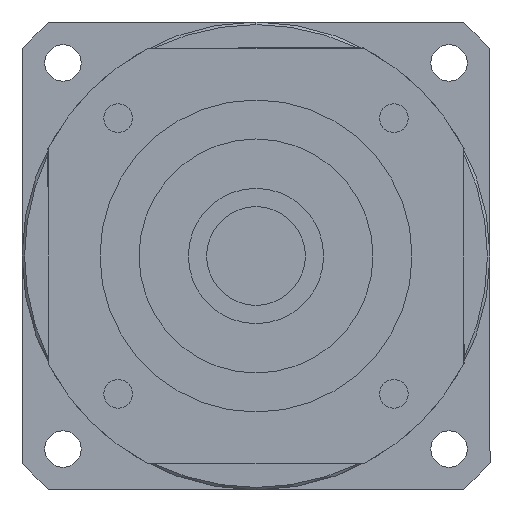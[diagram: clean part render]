
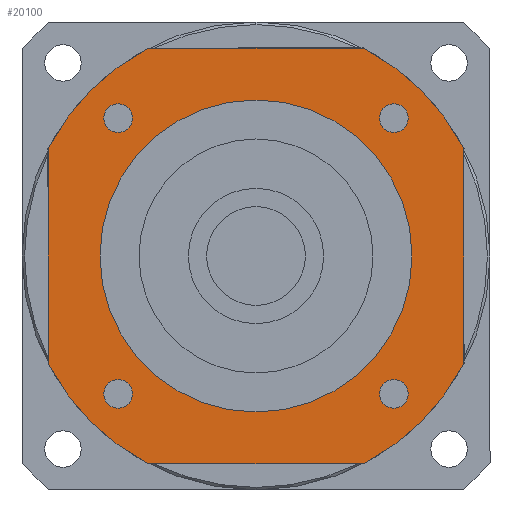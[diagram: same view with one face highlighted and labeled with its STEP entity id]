
A CAD part, left-side view. The second image highlights one B-rep face of the part: STEP entity #20100.
In plain terms, the highlighted planar face has unit normal (-1, 0, 0) as drawn and (0, 0, -1) by its records, which use the part's own axes.
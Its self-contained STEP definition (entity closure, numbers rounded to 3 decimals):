
#15810=CARTESIAN_POINT('',(-20.616,40.,-117.));
#15820=VERTEX_POINT('',#15810);
#15980=CARTESIAN_POINT('',(-40.,20.616,-117.));
#15990=VERTEX_POINT('',#15980);
#16020=CARTESIAN_POINT('',(0.,0.,
-117.));
#16030=DIRECTION('',(0.,0.,1.));
#16040=DIRECTION('',(0.,-1.,0.));
#16050=AXIS2_PLACEMENT_3D('',#16020,#16030,#16040);
#16060=CIRCLE('',#16050,45.);
#16070=EDGE_CURVE('',#15820,#15990,#16060,.T.);
#18340=CARTESIAN_POINT('',(20.616,40.,-117.));
#18350=VERTEX_POINT('',#18340);
#18480=CARTESIAN_POINT('',(40.,40.,-117.));
#18490=DIRECTION('',(-1.,0.,0.));
#18500=VECTOR('',#18490,1000.);
#18510=LINE('',#18480,#18500);
#18520=EDGE_CURVE('',#18350,#15820,#18510,.T.);
#18570=CARTESIAN_POINT('',(-40.,40.,-117.));
#18580=DIRECTION('',(0.,0.,1.));
#18590=DIRECTION('',(-1.,0.,0.));
#18600=AXIS2_PLACEMENT_3D('',#18570,#18580,#18590);
#18610=PLANE('',#18600);
#18620=CARTESIAN_POINT('',(26.517,-26.517,-117.));
#18630=DIRECTION('',(0.,0.,-1.));
#18640=DIRECTION('',(1.,0.,0.));
#18650=AXIS2_PLACEMENT_3D('',#18620,#18630,#18640);
#18660=CIRCLE('',#18650,2.75);
#18670=CARTESIAN_POINT('',(29.267,-26.517,-117.));
#18680=VERTEX_POINT('',#18670);
#18690=CARTESIAN_POINT('',(26.517,-29.267,-117.));
#18700=VERTEX_POINT('',#18690);
#18710=EDGE_CURVE('',#18680,#18700,#18660,.T.);
#18720=ORIENTED_EDGE('',*,*,#18710,.F.);
#18730=CARTESIAN_POINT('',(26.517,-23.767,-117.));
#18740=VERTEX_POINT('',#18730);
#18750=EDGE_CURVE('',#18700,#18740,#18660,.T.);
#18760=ORIENTED_EDGE('',*,*,#18750,.F.);
#18770=EDGE_CURVE('',#18740,#18680,#18660,.T.);
#18780=ORIENTED_EDGE('',*,*,#18770,.F.);
#18790=EDGE_LOOP('',(#18780,#18760,#18720));
#18800=FACE_BOUND('',#18790,.T.);
#18810=CARTESIAN_POINT('',(26.517,26.517,-117.));
#18820=DIRECTION('',(0.,0.,-1.));
#18830=DIRECTION('',(0.,1.,0.));
#18840=AXIS2_PLACEMENT_3D('',#18810,#18820,#18830);
#18850=CIRCLE('',#18840,2.75);
#18860=CARTESIAN_POINT('',(26.517,29.267,-117.));
#18870=VERTEX_POINT('',#18860);
#18880=CARTESIAN_POINT('',(29.267,26.517,-117.));
#18890=VERTEX_POINT('',#18880);
#18900=EDGE_CURVE('',#18870,#18890,#18850,.T.);
#18910=ORIENTED_EDGE('',*,*,#18900,.F.);
#18920=CARTESIAN_POINT('',(23.767,26.517,-117.));
#18930=VERTEX_POINT('',#18920);
#18940=EDGE_CURVE('',#18890,#18930,#18850,.T.);
#18950=ORIENTED_EDGE('',*,*,#18940,.F.);
#18960=EDGE_CURVE('',#18930,#18870,#18850,.T.);
#18970=ORIENTED_EDGE('',*,*,#18960,.F.);
#18980=EDGE_LOOP('',(#18970,#18950,#18910));
#18990=FACE_BOUND('',#18980,.T.);
#19000=CARTESIAN_POINT('',(-26.517,26.517,-117.));
#19010=DIRECTION('',(0.,0.,-1.));
#19020=DIRECTION('',(-1.,0.,0.));
#19030=AXIS2_PLACEMENT_3D('',#19000,#19010,#19020);
#19040=CIRCLE('',#19030,2.75);
#19050=CARTESIAN_POINT('',(-29.267,26.517,-117.));
#19060=VERTEX_POINT('',#19050);
#19070=CARTESIAN_POINT('',(-26.517,29.267,-117.));
#19080=VERTEX_POINT('',#19070);
#19090=EDGE_CURVE('',#19060,#19080,#19040,.T.);
#19100=ORIENTED_EDGE('',*,*,#19090,.F.);
#19110=CARTESIAN_POINT('',(-26.517,23.767,-117.));
#19120=VERTEX_POINT('',#19110);
#19130=EDGE_CURVE('',#19080,#19120,#19040,.T.);
#19140=ORIENTED_EDGE('',*,*,#19130,.F.);
#19150=EDGE_CURVE('',#19120,#19060,#19040,.T.);
#19160=ORIENTED_EDGE('',*,*,#19150,.F.);
#19170=EDGE_LOOP('',(#19160,#19140,#19100));
#19180=FACE_BOUND('',#19170,.T.);
#19190=CARTESIAN_POINT('',(-26.517,-26.517,-117.));
#19200=DIRECTION('',(0.,0.,-1.));
#19210=DIRECTION('',(0.,-1.,0.));
#19220=AXIS2_PLACEMENT_3D('',#19190,#19200,#19210);
#19230=CIRCLE('',#19220,2.75);
#19240=CARTESIAN_POINT('',(-26.517,-29.267,-117.));
#19250=VERTEX_POINT('',#19240);
#19260=CARTESIAN_POINT('',(-29.267,-26.517,-117.));
#19270=VERTEX_POINT('',#19260);
#19280=EDGE_CURVE('',#19250,#19270,#19230,.T.);
#19290=ORIENTED_EDGE('',*,*,#19280,.F.);
#19300=CARTESIAN_POINT('',(-23.767,-26.517,-117.));
#19310=VERTEX_POINT('',#19300);
#19320=EDGE_CURVE('',#19270,#19310,#19230,.T.);
#19330=ORIENTED_EDGE('',*,*,#19320,.F.);
#19340=EDGE_CURVE('',#19310,#19250,#19230,.T.);
#19350=ORIENTED_EDGE('',*,*,#19340,.F.);
#19360=EDGE_LOOP('',(#19350,#19330,#19290));
#19370=FACE_BOUND('',#19360,.T.);
#19380=CARTESIAN_POINT('',(0.,0.,
-117.));
#19390=DIRECTION('',(0.,0.,1.));
#19400=DIRECTION('',(0.,-1.,0.));
#19410=AXIS2_PLACEMENT_3D('',#19380,#19390,#19400);
#19420=CIRCLE('',#19410,45.);
#19430=CARTESIAN_POINT('',(-40.,-20.616,-117.));
#19440=VERTEX_POINT('',#19430);
#19450=CARTESIAN_POINT('',(-20.616,-40.,-117.));
#19460=VERTEX_POINT('',#19450);
#19470=EDGE_CURVE('',#19440,#19460,#19420,.T.);
#19480=ORIENTED_EDGE('',*,*,#19470,.F.);
#19490=CARTESIAN_POINT('',(-40.,-40.,-117.));
#19500=DIRECTION('',(1.,0.,0.));
#19510=VECTOR('',#19500,1000.);
#19520=LINE('',#19490,#19510);
#19530=CARTESIAN_POINT('',(20.616,-40.,-117.));
#19540=VERTEX_POINT('',#19530);
#19550=EDGE_CURVE('',#19460,#19540,#19520,.T.);
#19560=ORIENTED_EDGE('',*,*,#19550,.F.);
#19570=CARTESIAN_POINT('',(0.,0.,
-117.));
#19580=DIRECTION('',(0.,0.,1.));
#19590=DIRECTION('',(0.,-1.,0.));
#19600=AXIS2_PLACEMENT_3D('',#19570,#19580,#19590);
#19610=CIRCLE('',#19600,45.);
#19620=CARTESIAN_POINT('',(40.,-20.616,-117.));
#19630=VERTEX_POINT('',#19620);
#19640=EDGE_CURVE('',#19540,#19630,#19610,.T.);
#19650=ORIENTED_EDGE('',*,*,#19640,.F.);
#19660=CARTESIAN_POINT('',(40.,-40.,-117.));
#19670=DIRECTION('',(0.,1.,0.));
#19680=VECTOR('',#19670,1000.);
#19690=LINE('',#19660,#19680);
#19700=CARTESIAN_POINT('',(40.,20.616,-117.));
#19710=VERTEX_POINT('',#19700);
#19720=EDGE_CURVE('',#19630,#19710,#19690,.T.);
#19730=ORIENTED_EDGE('',*,*,#19720,.F.);
#19740=CARTESIAN_POINT('',(0.,0.,
-117.));
#19750=DIRECTION('',(0.,0.,1.));
#19760=DIRECTION('',(0.,-1.,0.));
#19770=AXIS2_PLACEMENT_3D('',#19740,#19750,#19760);
#19780=CIRCLE('',#19770,45.);
#19790=EDGE_CURVE('',#19710,#18350,#19780,.T.);
#19800=ORIENTED_EDGE('',*,*,#19790,.F.);
#19810=ORIENTED_EDGE('',*,*,#18520,.F.);
#19820=ORIENTED_EDGE('',*,*,#16070,.F.);
#19830=CARTESIAN_POINT('',(-40.,40.,-117.));
#19840=DIRECTION('',(0.,-1.,0.));
#19850=VECTOR('',#19840,1000.);
#19860=LINE('',#19830,#19850);
#19870=EDGE_CURVE('',#15990,#19440,#19860,.T.);
#19880=ORIENTED_EDGE('',*,*,#19870,.F.);
#19890=EDGE_LOOP('',(#19880,#19820,#19810,#19800,#19730,#19650,#19560,
#19480));
#19900=FACE_OUTER_BOUND('',#19890,.T.);
#19910=CARTESIAN_POINT('',(0.,0.,
-117.));
#19920=DIRECTION('',(0.,0.,1.));
#19930=DIRECTION('',(0.,-1.,0.));
#19940=AXIS2_PLACEMENT_3D('',#19910,#19920,#19930);
#19950=CIRCLE('',#19940,30.);
#19960=CARTESIAN_POINT('',(30.,0.,-117.));
#19970=VERTEX_POINT('',#19960);
#19980=CARTESIAN_POINT('',(-30.,0.,-117.));
#19990=VERTEX_POINT('',#19980);
#20000=EDGE_CURVE('',#19970,#19990,#19950,.T.);
#20010=ORIENTED_EDGE('',*,*,#20000,.T.);
#20020=CARTESIAN_POINT('',(0.,-30.,-117.));
#20030=VERTEX_POINT('',#20020);
#20040=EDGE_CURVE('',#20030,#19970,#19950,.T.);
#20050=ORIENTED_EDGE('',*,*,#20040,.T.);
#20060=EDGE_CURVE('',#19990,#20030,#19950,.T.);
#20070=ORIENTED_EDGE('',*,*,#20060,.T.);
#20080=EDGE_LOOP('',(#20070,#20050,#20010));
#20090=FACE_BOUND('',#20080,.T.);
#20100=ADVANCED_FACE('',(#18800,#18990,#19180,#19370,#19900,#20090),
#18610,.F.);
